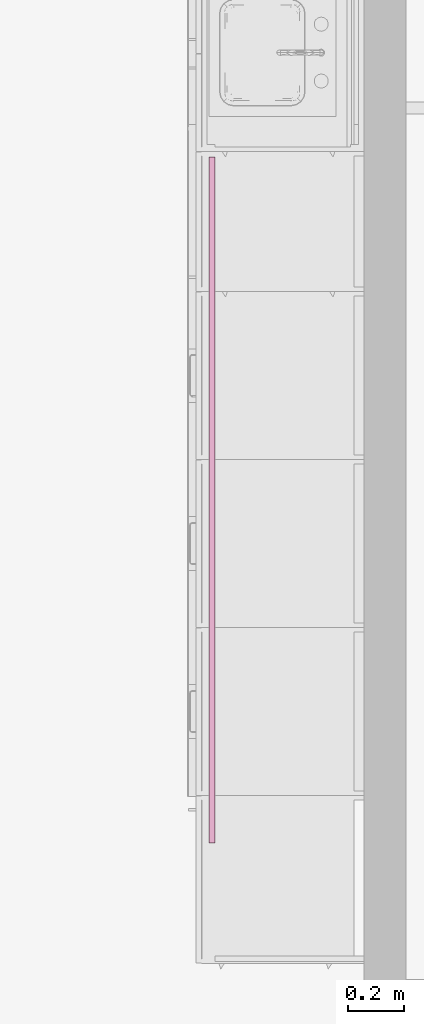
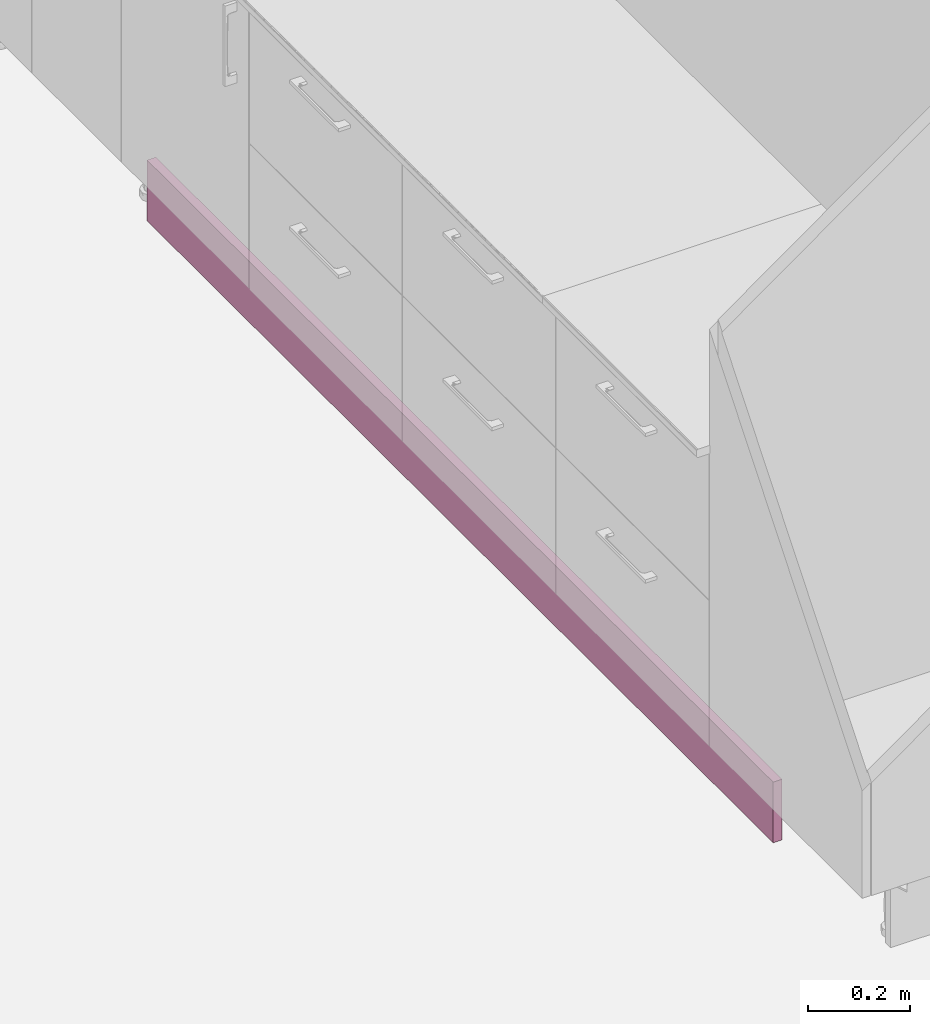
# One storey, part 14 of 19: 1 furnishing.
"""IFC2X3 building model written with IfcOpenShell, lengths in millimetres."""

from ifc_helpers import new_model, entity, si_unit, converted_unit, derived_unit, direction, frame, frame_2d, origin, place, context, subcontext, project, spatial, rectangle, extrude, source, transform, mapped, material, type_object, type_shapes, element, save


model = new_model("IFC2X3")

# Units and contexts
model_context = context("Model", 3, precision=0.01, world=origin(), true_north=direction((6.12303176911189e-17, 1.0)))
context_of_model = context(None, 3, precision=0.01, world=origin(), true_north=direction((6.12303176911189e-17, 1.0)))
body_context = subcontext(model_context, "Body", "Model", "MODEL_VIEW")
ifc_project = project(units=[si_unit("LENGTHUNIT", "METRE", prefix="MILLI"), si_unit("AREAUNIT", "SQUARE_METRE"), si_unit("VOLUMEUNIT", "CUBIC_METRE"), converted_unit("PLANEANGLEUNIT", "DEGREE", entity("IfcRatioMeasure", 0.0174532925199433), si_unit("PLANEANGLEUNIT", "RADIAN"), dimensions=[0, 0, 0, 0, 0, 0, 0]), si_unit("MASSUNIT", "GRAM", prefix="KILO"), derived_unit("MASSDENSITYUNIT", [(si_unit("MASSUNIT", "GRAM", prefix="KILO"), 1), (si_unit("LENGTHUNIT", "METRE"), -3)]), si_unit("TIMEUNIT", "SECOND"), si_unit("FREQUENCYUNIT", "HERTZ"), si_unit("THERMODYNAMICTEMPERATUREUNIT", "DEGREE_CELSIUS"), derived_unit("THERMALTRANSMITTANCEUNIT", [(si_unit("MASSUNIT", "GRAM", prefix="KILO"), 1), (si_unit("THERMODYNAMICTEMPERATUREUNIT", "KELVIN"), -1), (si_unit("TIMEUNIT", "SECOND"), -3)]), derived_unit("VOLUMETRICFLOWRATEUNIT", [(si_unit("LENGTHUNIT", "METRE"), 3), (si_unit("TIMEUNIT", "SECOND"), -1)]), si_unit("ELECTRICCURRENTUNIT", "AMPERE"), si_unit("ELECTRICVOLTAGEUNIT", "VOLT"), si_unit("POWERUNIT", "WATT"), si_unit("FORCEUNIT", "NEWTON", prefix="KILO"), si_unit("ILLUMINANCEUNIT", "LUX"), si_unit("LUMINOUSFLUXUNIT", "LUMEN"), si_unit("LUMINOUSINTENSITYUNIT", "CANDELA"), derived_unit("USERDEFINED", [(si_unit("MASSUNIT", "GRAM", prefix="KILO"), -1), (si_unit("LENGTHUNIT", "METRE"), -2), (si_unit("TIMEUNIT", "SECOND"), 3), (si_unit("LUMINOUSFLUXUNIT", "LUMEN"), 1)]), derived_unit("LINEARVELOCITYUNIT", [(si_unit("LENGTHUNIT", "METRE"), 1), (si_unit("TIMEUNIT", "SECOND"), -1)]), si_unit("PRESSUREUNIT", "PASCAL"), derived_unit("USERDEFINED", [(si_unit("LENGTHUNIT", "METRE"), -2), (si_unit("MASSUNIT", "GRAM", prefix="KILO"), 1), (si_unit("TIMEUNIT", "SECOND"), -2)])], contexts=[model_context, context_of_model])

# Site, building, storey, space
site_placement = place(None, frame((121442.264707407, 135347.995453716, -1800.0)))
site = spatial("IfcSite", under=ifc_project, at=site_placement, Name="Surface", CompositionType="ELEMENT")
building_placement = place(site_placement, origin())
building = spatial("IfcBuilding", under=site, at=building_placement, CompositionType="ELEMENT")
storey_placement = place(building_placement, frame((0.0, 0.0, 5125.0)))
storey = spatial("IfcBuildingStorey", under=building, at=storey_placement, Name="2 korrus", CompositionType="ELEMENT", Elevation=5125.00000000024)
space_placement = place(storey_placement, origin())
space = spatial("IfcSpace", under=storey, at=space_placement, Name="225", CompositionType="ELEMENT", InteriorOrExteriorSpace="INTERNAL")

# Furnishing
ifc_material = material(Name="Skirt")
furniture_type = type_object("IfcFurnitureType", Name="skirt_04", AssemblyPlace="NOTDEFINED", material=ifc_material)
shared_shape = source(origin(), body_context, "Body", "SweptSolid", [
    extrude(rectangle(XDim=20.0, YDim=2449.53407306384, at=frame_2d((-1.77635683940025e-15, 0.0), x_axis=(1.0, 0.0))), frame((1938.11417540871, 10.0, 0.0), z_axis=(0.0, 0.0, 1.0), x_axis=(0.0, 1.0, 0.0)), (0.0, 0.0, 1.0), 144.8),
])
type_shapes(furniture_type, [shared_shape])
furnishing_placement = place(space_placement, frame((-114038.548066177, -115348.076575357, 0.0), z_axis=(0.0, 0.0, 1.0), x_axis=(0.0, -1.0, 0.0)))
element("IfcFurnishingElement", 1, at=furnishing_placement, inside=space, type_object=furniture_type, material=ifc_material, Name="skirt_04:skirt_04", ObjectType="skirt_04", context=body_context, shape_type="MappedRepresentation", body=[
    mapped(shared_shape, transform((0.0, 0.0, 0.0), scale=1.0)),
])

save(model, "model.ifc")
